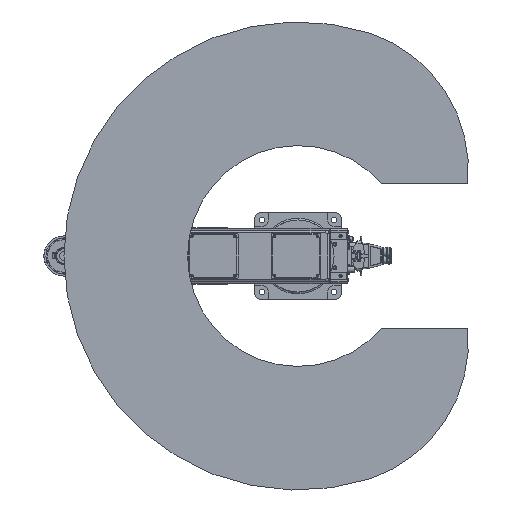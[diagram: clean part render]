
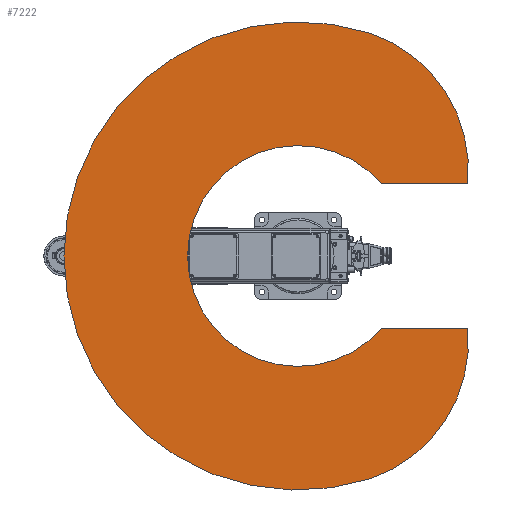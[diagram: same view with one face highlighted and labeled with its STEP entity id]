
A CAD part, front view. The second image highlights one B-rep face of the part: STEP entity #7222.
In plain terms, the highlighted planar face has unit normal (0, -1, 0).
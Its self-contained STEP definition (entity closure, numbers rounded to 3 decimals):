
#7222 = ADVANCED_FACE( '', ( #15622 ), #15623, .F. );
#15622 = FACE_OUTER_BOUND( '', #25510, .T. );
#15623 = PLANE( '', #25511 );
#25510 = EDGE_LOOP( '', ( #45404, #45405, #45406, #45407, #45408, #45409, #45410, #45411 ) );
#25511 = AXIS2_PLACEMENT_3D( '', #45412, #45413, #45414 );
#45404 = ORIENTED_EDGE( '', *, *, #53996, .F. );
#45405 = ORIENTED_EDGE( '', *, *, #50500, .F. );
#45406 = ORIENTED_EDGE( '', *, *, #48952, .F. );
#45407 = ORIENTED_EDGE( '', *, *, #55102, .T. );
#45408 = ORIENTED_EDGE( '', *, *, #55778, .F. );
#45409 = ORIENTED_EDGE( '', *, *, #53803, .F. );
#45410 = ORIENTED_EDGE( '', *, *, #48481, .F. );
#45411 = ORIENTED_EDGE( '', *, *, #55779, .F. );
#45412 = CARTESIAN_POINT( '', ( 0., 0., 0. ) );
#45413 = DIRECTION( '', ( 0., 1., 0. ) );
#45414 = DIRECTION( '', ( 0., 0., 1. ) );
#48481 = EDGE_CURVE( '', #56891, #56892, #56893, .T. );
#48952 = EDGE_CURVE( '', #57714, #57715, #57716, .T. );
#50500 = EDGE_CURVE( '', #57715, #60318, #60319, .T. );
#53803 = EDGE_CURVE( '', #56892, #65335, #65336, .T. );
#53996 = EDGE_CURVE( '', #60318, #65591, #65592, .T. );
#55102 = EDGE_CURVE( '', #57714, #67011, #67012, .T. );
#55778 = EDGE_CURVE( '', #65335, #67011, #67775, .T. );
#55779 = EDGE_CURVE( '', #65591, #56891, #67776, .T. );
#56891 = VERTEX_POINT( '', #69490 );
#56892 = VERTEX_POINT( '', #69491 );
#56893 = LINE( '', #69492, #69493 );
#57714 = VERTEX_POINT( '', #71461 );
#57715 = VERTEX_POINT( '', #71462 );
#57716 = LINE( '', #71463, #71464 );
#60318 = VERTEX_POINT( '', #75524 );
#60319 = CIRCLE( '', #75525, 400. );
#65335 = VERTEX_POINT( '', #83475 );
#65336 = CIRCLE( '', #83476, 400. );
#65591 = VERTEX_POINT( '', #83839 );
#65592 = LINE( '', #83840, #83841 );
#67011 = VERTEX_POINT( '', #86255 );
#67012 = CIRCLE( '', #86256, 306.5 );
#67775 = LINE( '', #87402, #87403 );
#67776 = CIRCLE( '', #87404, 650. );
#69490 = CARTESIAN_POINT( '', ( -618.337, 0., 200.398 ) );
#69491 = CARTESIAN_POINT( '', ( -618.276, 0., 200.398 ) );
#69492 = CARTESIAN_POINT( '', ( -618.337, 0., 200.398 ) );
#69493 = VECTOR( '', #88492, 1000. );
#71461 = CARTESIAN_POINT( '', ( 200., 0., 232.255 ) );
#71462 = CARTESIAN_POINT( '', ( 200., 0., 471.18 ) );
#71463 = CARTESIAN_POINT( '', ( 200., 0., 232.255 ) );
#71464 = VECTOR( '', #89030, 1000. );
#75524 = CARTESIAN_POINT( '', ( 618.277, 0., 200.398 ) );
#75525 = AXIS2_PLACEMENT_3D( '', #91022, #91023, #91024 );
#83475 = CARTESIAN_POINT( '', ( -200., 0., 471.177 ) );
#83476 = AXIS2_PLACEMENT_3D( '', #95114, #95115, #95116 );
#83839 = CARTESIAN_POINT( '', ( 618.337, 0., 200.398 ) );
#83840 = CARTESIAN_POINT( '', ( 618.277, 0., 200.398 ) );
#83841 = VECTOR( '', #95348, 1000. );
#86255 = CARTESIAN_POINT( '', ( -200., 0., 232.255 ) );
#86256 = AXIS2_PLACEMENT_3D( '', #96355, #96356, #96357 );
#87402 = CARTESIAN_POINT( '', ( -200., 0., 471.177 ) );
#87403 = VECTOR( '', #96874, 1000. );
#87404 = AXIS2_PLACEMENT_3D( '', #96875, #96876, #96877 );
#88492 = DIRECTION( '', ( 1., 0., 0. ) );
#89030 = DIRECTION( '', ( 0., 0., 1. ) );
#91022 = CARTESIAN_POINT( '', ( 239.076, 0., 73.093 ) );
#91023 = DIRECTION( '', ( 0., 1., 0. ) );
#91024 = DIRECTION( '', ( 1., 0., 0. ) );
#95114 = CARTESIAN_POINT( '', ( -239.076, 0., 73.09 ) );
#95115 = DIRECTION( '', ( 0., 1., 0. ) );
#95116 = DIRECTION( '', ( 1., 0., 0. ) );
#95348 = DIRECTION( '', ( 1., 0., 0. ) );
#96355 = CARTESIAN_POINT( '', ( 0., 0., 0. ) );
#96356 = DIRECTION( '', ( 0., 1., 0. ) );
#96357 = DIRECTION( '', ( 1., 0., 0. ) );
#96874 = DIRECTION( '', ( 0., 0., -1. ) );
#96875 = CARTESIAN_POINT( '', ( 0., 0., 0. ) );
#96876 = DIRECTION( '', ( 0., 1., 0. ) );
#96877 = DIRECTION( '', ( 1., 0., 0. ) );
